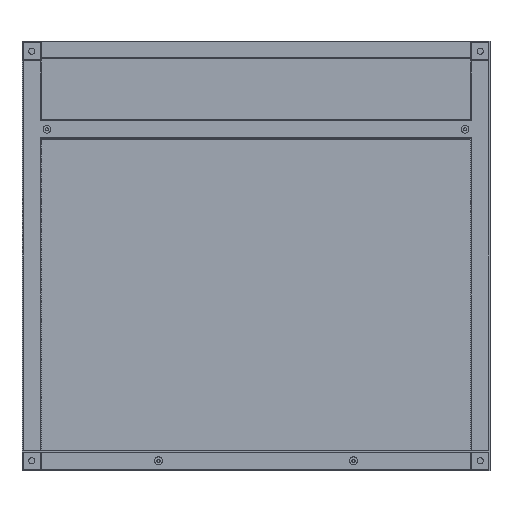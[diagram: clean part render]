
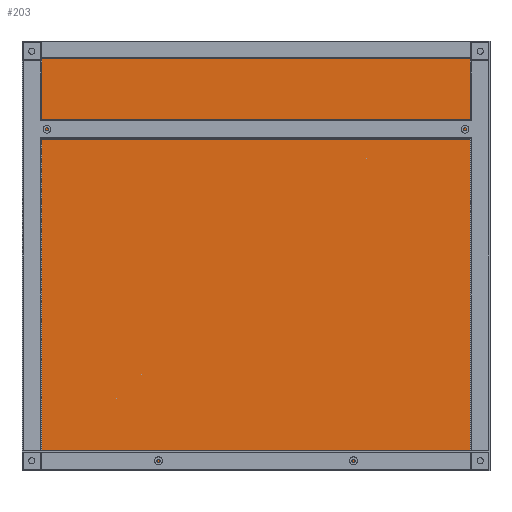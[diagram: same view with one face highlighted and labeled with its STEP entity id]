
A CAD part, front view. The second image highlights one B-rep face of the part: STEP entity #203.
In plain terms, the highlighted planar face has unit normal (0, -1, 0) as drawn and (0, 0, -1) by its records, which use the part's own axes.
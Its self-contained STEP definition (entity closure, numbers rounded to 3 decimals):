
#201 = FACE_OUTER_BOUND ( 'NONE', #6091, .T. ) ;
#203 = ADVANCED_FACE ( 'NONE', ( #201 ), #3567, .T. ) ;
#717 = LINE ( 'NONE', #5952, #2857 ) ;
#804 = VERTEX_POINT ( 'NONE', #2075 ) ;
#806 = LINE ( 'NONE', #4286, #1934 ) ;
#852 = CARTESIAN_POINT ( 'NONE',  ( 25., 275., 0. ) ) ;
#982 = CARTESIAN_POINT ( 'NONE',  ( 25., 275., 0. ) ) ;
#1715 = CARTESIAN_POINT ( 'NONE',  ( 575., 275., 0. ) ) ;
#1763 = VECTOR ( 'NONE', #2909, 1000. ) ;
#1770 = DIRECTION ( 'NONE',  ( 0., 1., 0. ) ) ;
#1934 = VECTOR ( 'NONE', #3707, 1000. ) ;
#1942 = LINE ( 'NONE', #982, #1763 ) ;
#2027 = EDGE_CURVE ( 'NONE', #2202, #5918, #717, .T. ) ;
#2075 = CARTESIAN_POINT ( 'NONE',  ( 575., -253., 0. ) ) ;
#2202 = VERTEX_POINT ( 'NONE', #852 ) ;
#2775 = ORIENTED_EDGE ( 'NONE', *, *, #3312, .F. ) ;
#2857 = VECTOR ( 'NONE', #4067, 1000. ) ;
#2909 = DIRECTION ( 'NONE',  ( -1., 0., 0. ) ) ;
#3312 = EDGE_CURVE ( 'NONE', #5918, #804, #806, .T. ) ;
#3372 = EDGE_CURVE ( 'NONE', #804, #4227, #4220, .T. ) ;
#3567 = PLANE ( 'NONE',  #5287 ) ;
#3707 = DIRECTION ( 'NONE',  ( 1., 0., 0. ) ) ;
#3864 = ORIENTED_EDGE ( 'NONE', *, *, #5757, .F. ) ;
#4067 = DIRECTION ( 'NONE',  ( 0., -1., 0. ) ) ;
#4220 = LINE ( 'NONE', #6169, #4506 ) ;
#4227 = VERTEX_POINT ( 'NONE', #1715 ) ;
#4286 = CARTESIAN_POINT ( 'NONE',  ( 25., -253., 0. ) ) ;
#4502 = DIRECTION ( 'NONE',  ( 0., 0., -1. ) ) ;
#4506 = VECTOR ( 'NONE', #1770, 1000. ) ;
#4607 = DIRECTION ( 'NONE',  ( -1., 0., 0. ) ) ;
#5011 = CARTESIAN_POINT ( 'NONE',  ( 0., 0., 0. ) ) ;
#5287 = AXIS2_PLACEMENT_3D ( 'NONE', #5011, #4502, #4607 ) ;
#5757 = EDGE_CURVE ( 'NONE', #4227, #2202, #1942, .T. ) ;
#5910 = ORIENTED_EDGE ( 'NONE', *, *, #2027, .F. ) ;
#5918 = VERTEX_POINT ( 'NONE', #6151 ) ;
#5952 = CARTESIAN_POINT ( 'NONE',  ( 25., -253., 0. ) ) ;
#6087 = ORIENTED_EDGE ( 'NONE', *, *, #3372, .F. ) ;
#6091 = EDGE_LOOP ( 'NONE', ( #5910, #3864, #6087, #2775 ) ) ;
#6151 = CARTESIAN_POINT ( 'NONE',  ( 25., -253., 0. ) ) ;
#6169 = CARTESIAN_POINT ( 'NONE',  ( 575., -253., 0. ) ) ;
